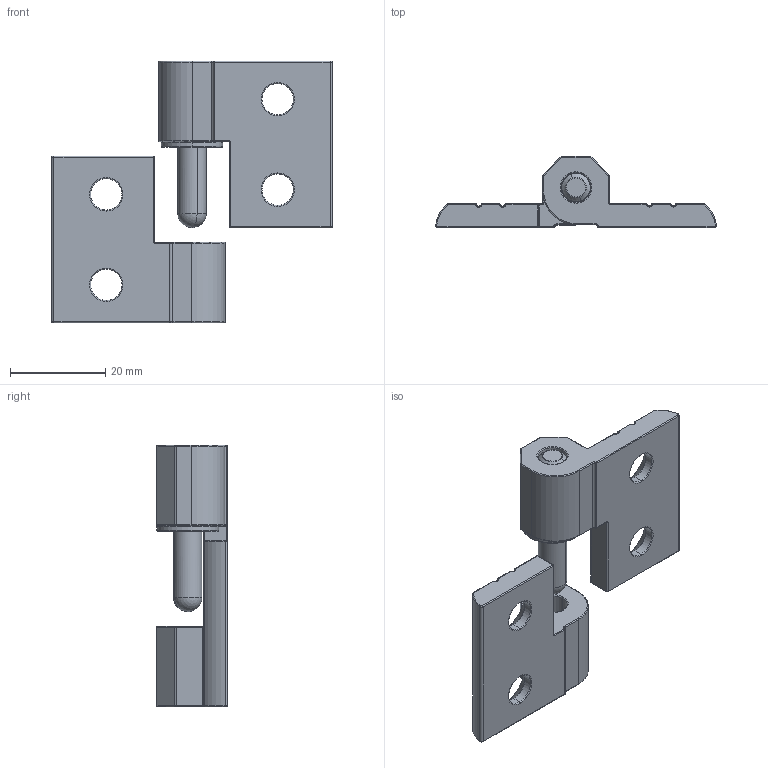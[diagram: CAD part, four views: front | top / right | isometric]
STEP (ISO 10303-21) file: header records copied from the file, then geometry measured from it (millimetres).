
FILE_DESCRIPTION (( 'STEP AP214' ), '1' );
FILE_NAME ('HGA-5935-3619-R.STEP', '2020-03-23T07:13:45', ( '' ), ( '' ), 'SwSTEP 2.0', 'SolidWorks 2016', '' );
FILE_SCHEMA (( 'AUTOMOTIVE_DESIGN' ));
Length unit declared in the file: millimetre
Products named in the file (4): 脣誏; 墊片; HGA-5935-3619-R; 縡?ﾆｬ
Assembly tree (4 placements, depth 2):
  HGA-5935-3619-R
    縡?ﾆｬ  x2
    脣誏
    墊片
Bounding box: 59 x 15 x 55 mm (x, y, z)
Volume: 12266.1 mm3; surface area: 7731.9 mm2
Topology: 4 solids, 4 shells, 604 faces, 1473 edges, 815 vertices
Faces by surface type: cylinder 291, torus 114, plane 95, sphere 62, bspline 32, cone 10
Entity records: 13349 total; most frequent: CARTESIAN_POINT 3265, DIRECTION 2327, ORIENTED_EDGE 2022, AXIS2_PLACEMENT_3D 1029, EDGE_CURVE 1011, CIRCLE 620, VERTEX_POINT 597, EDGE_LOOP 424
